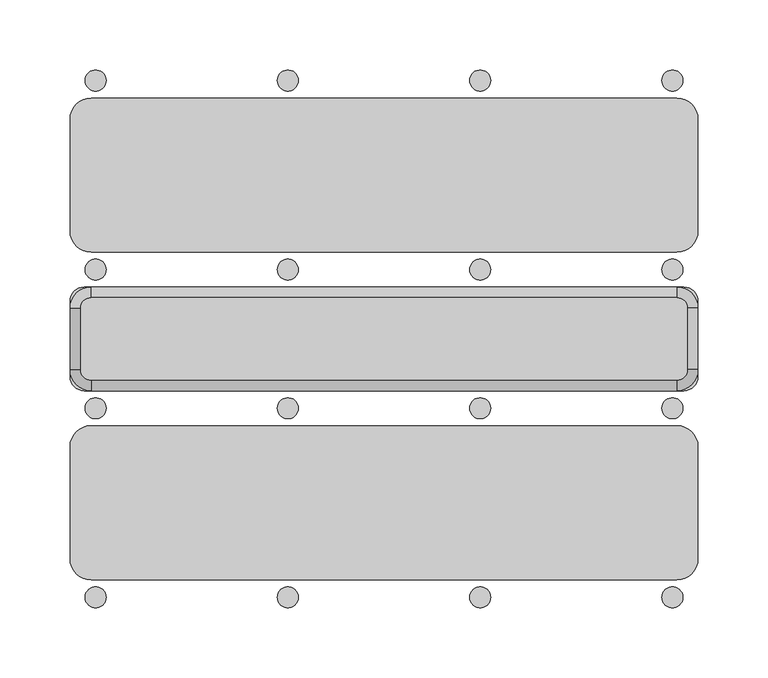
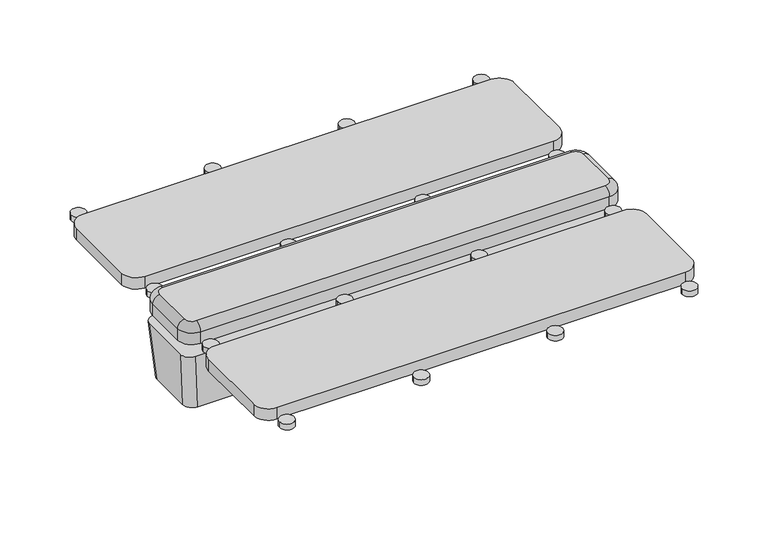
"""IFC4 building model written with IfcOpenShell, lengths in millimetres: light fixture geometry, Zumtobel CRAFT II Plus : CR2PL M17k-840 PC WB LDO WH."""

from ifc_helpers import new_model, si_unit, point, frame, frame_2d, origin, place, context, project, spatial, polyline, circle_curve, ellipse_curve, trimmed, segment, composite_curve, outline, extrude, source, transform, mapped, element, save
from ifc_brep_helpers import plane_surface, cylinder_surface, revolved_surface, extruded_surface, advanced_brep


def light_fixture_5285f3ff(model_context):
    return source(origin(), model_context, "Body", "SolidModel", [
        advanced_brep(
        [(608.5000048, -32.0, -84.0), (190.5000048, -32.0, -84.0), (180.5000048, -22.0, -84.0), (180.5000048, 22.0, -84.0), (190.5000048, 32.0, -84.0), (608.5000048, 32.0, -84.0), (618.5000048, 22.0, -84.0), (618.5000048, -22.0, -84.0), (613.5000048, -37.0, -25.0), (185.5000048, -37.0, -25.0), (175.5000048, -27.0, -25.0), (175.5000048, 27.0, -25.0), (185.5000048, 37.0, -25.0), (613.5000048, 37.0, -25.0), (623.5000048, 27.0, -25.0), (623.5000048, -27.0, -25.0)],
        [
            (0, 1),
            (1, 2, circle_curve(frame((190.5000048, -22.0, -84.0), z_axis=(0.0, 0.0, -1.0), x_axis=(1.0, 0.0, 0.0)), 10.0)),
            (2, 3),
            (3, 4, circle_curve(frame((190.5000048, 22.0, -84.0), z_axis=(0.0, 0.0, -1.0), x_axis=(1.0, 0.0, 0.0)), 10.0)),
            (4, 5),
            (5, 6, circle_curve(frame((608.5000048, 22.0, -84.0), z_axis=(0.0, 0.0, -1.0), x_axis=(1.0, 0.0, 0.0)), 10.0)),
            (6, 7),
            (7, 0, circle_curve(frame((608.5000048, -22.0, -84.0), z_axis=(0.0, 0.0, -1.0), x_axis=(1.0, 0.0, 0.0)), 10.0)),
            (8, 9),
            (9, 1),
            (0, 8),
            (10, 11),
            (11, 3),
            (2, 10),
            (12, 13),
            (13, 5),
            (4, 12),
            (14, 15),
            (15, 7),
            (6, 14),
            (9, 10, circle_curve(frame((185.5000048, -27.0, -25.0), z_axis=(0.0, 0.0, -1.0), x_axis=(1.0, 0.0, 0.0)), 10.0)),
            (11, 12, circle_curve(frame((185.5000048, 27.0, -25.0), z_axis=(0.0, 0.0, -1.0), x_axis=(1.0, 0.0, 0.0)), 10.0)),
            (13, 14, circle_curve(frame((613.5000048, 27.0, -25.0), z_axis=(0.0, 0.0, -1.0), x_axis=(1.0, 0.0, 0.0)), 10.0)),
            (15, 8, circle_curve(frame((613.5000048, -27.0, -25.0), z_axis=(0.0, 0.0, -1.0), x_axis=(1.0, 0.0, 0.0)), 10.0)),
        ],
        [
            plane_surface(frame((399.5000048, 0.0, -84.0), z_axis=(0.0, 0.0, -1.0), x_axis=(-1.0, 0.0, 0.0))),
            plane_surface(frame((399.5000048, -37.0, -25.0), z_axis=(0.0, -0.9964283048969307, -0.08444307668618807), x_axis=(-1.0, 0.0, 0.0))),
            plane_surface(frame((175.5000048, 0.0, -25.0), z_axis=(-0.9964283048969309, 0.0, -0.08444307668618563), x_axis=(0.0, 1.0, 0.0))),
            plane_surface(frame((399.5000048, 37.0, -25.0), z_axis=(0.0, 0.9964283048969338, -0.08444307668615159), x_axis=(1.0, 0.0, 0.0))),
            plane_surface(frame((623.5000048, 0.0, -25.0), z_axis=(0.9964283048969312, 0.0, -0.0844430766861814), x_axis=(0.0, -1.0, 0.0))),
            extruded_surface(trimmed(circle_curve(frame((185.5000048, -27.0, -25.0), z_axis=(0.0, 0.0, -1.0), x_axis=(1.0, 0.0, 0.0)), 10.0), [point((185.5000048, -37.0, -25.0))], [point((175.5000048, -27.0, -25.0))], True, "CARTESIAN"), (5.0, 5.0, -59.0), 59.42221806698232),
            extruded_surface(trimmed(circle_curve(frame((185.5000048, 27.0, -25.0), z_axis=(0.0, 0.0, -1.0), x_axis=(1.0, 0.0, 0.0)), 10.0), [point((175.5000048, 27.0, -25.0))], [point((185.5000048, 37.0, -25.0))], True, "CARTESIAN"), (5.0, -5.0, -59.0), 59.42221806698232),
            extruded_surface(trimmed(circle_curve(frame((613.5000048, 27.0, -25.0), z_axis=(0.0, 0.0, -1.0), x_axis=(1.0, 0.0, 0.0)), 10.0), [point((613.5000048, 37.0, -25.0))], [point((623.5000048, 27.0, -25.0))], True, "CARTESIAN"), (-5.0, -5.0, -59.0), 59.42221806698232),
            extruded_surface(trimmed(circle_curve(frame((613.5000048, -27.0, -25.0), z_axis=(0.0, 0.0, -1.0), x_axis=(1.0, 0.0, 0.0)), 10.0), [point((623.5000048, -27.0, -25.0))], [point((613.5000048, -37.0, -25.0))], True, "CARTESIAN"), (-5.0, 5.0, -59.0), 59.42221806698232),
            plane_surface(frame((399.5000048, 0.0, -25.0), z_axis=(0.0, 0.0, 1.0), x_axis=(-1.0, 0.0, 0.0))),
        ],
        [
            (0, [[1, 2, 3, 4, 5, 6, 7, 8]]),
            (1, [[9, 10, -1, 11]]),
            (2, [[12, 13, -3, 14]]),
            (3, [[15, 16, -5, 17]]),
            (4, [[18, 19, -7, 20]]),
            (5, [[21, -14, -2, -10]]),
            (6, [[22, -17, -4, -13]]),
            (7, [[23, -20, -6, -16]]),
            (8, [[24, -11, -8, -19]]),
            (9, [[-24, -18, -23, -15, -22, -12, -21, -9]]),
        ],
    ),
        extrude(outline(composite_curve([segment(polyline([(175.5000048, -157.0), (175.5000048, -77.0)]), True, "CONTINUOUS"), segment(trimmed(circle_curve(frame_2d((190.5000048, -77.0)), 15.0), [point((175.5000048, -77.0))], [point((190.5000048, -62.0))], False, "CARTESIAN"), True, "CONTINUOUS"), segment(polyline([(190.5000048, -62.0), (608.5000048, -62.0)]), True, "CONTINUOUS"), segment(trimmed(circle_curve(frame_2d((608.5000048, -77.0)), 15.0), [point((608.5000048, -62.0))], [point((623.5000048, -77.0))], False, "CARTESIAN"), True, "CONTINUOUS"), segment(polyline([(623.5000048, -77.0), (623.5000048, -157.0)]), True, "CONTINUOUS"), segment(trimmed(circle_curve(frame_2d((608.5000048, -157.0)), 15.0), [point((623.5000048, -157.0))], [point((608.5000048, -172.0))], False, "CARTESIAN"), True, "CONTINUOUS"), segment(polyline([(608.5000048, -172.0), (190.5000048, -172.0)]), True, "CONTINUOUS"), segment(trimmed(circle_curve(frame_2d((190.5000048, -157.0)), 15.0), [point((190.5000048, -172.0))], [point((175.5000048, -157.0))], False, "CARTESIAN"), True, "CONTINUOUS")], self_intersect=False)), frame((0.0, 0.0, -12.5), z_axis=(0.0, 0.0, 1.0), x_axis=(1.0, 0.0, 0.0)), (0.0, 0.0, 1.0), 12.5),
        extrude(outline(composite_curve([segment(trimmed(circle_curve(frame_2d((608.5000048, 157.0)), 15.0), [point((608.5000048, 172.0))], [point((623.5000048, 157.0))], False, "CARTESIAN"), True, "CONTINUOUS"), segment(polyline([(623.5000048, 157.0), (623.5000048, 77.0)]), True, "CONTINUOUS"), segment(trimmed(circle_curve(frame_2d((608.5000048, 77.0)), 15.0), [point((623.5000048, 77.0))], [point((608.5000048, 62.0))], False, "CARTESIAN"), True, "CONTINUOUS"), segment(polyline([(608.5000048, 62.0), (190.5000048, 62.0)]), True, "CONTINUOUS"), segment(trimmed(circle_curve(frame_2d((190.5000048, 77.0)), 15.0), [point((190.5000048, 62.0))], [point((175.5000048, 77.0))], False, "CARTESIAN"), True, "CONTINUOUS"), segment(polyline([(175.5000048, 77.0), (175.5000048, 157.0)]), True, "CONTINUOUS"), segment(trimmed(circle_curve(frame_2d((190.5000048, 157.0)), 15.0), [point((175.5000048, 157.0))], [point((190.5000048, 172.0))], False, "CARTESIAN"), True, "CONTINUOUS"), segment(polyline([(190.5000048, 172.0), (608.5000048, 172.0)]), True, "CONTINUOUS")], self_intersect=False)), frame((0.0, 0.0, -12.5), z_axis=(0.0, 0.0, 1.0), x_axis=(1.0, 0.0, 0.0)), (0.0, 0.0, 1.0), 12.5),
        extrude(outline(composite_curve([segment(trimmed(circle_curve(frame_2d((193.6792473, -184.5)), 7.5), [point((186.1792473, -184.5))], [point((201.1792473, -184.5))], False, "CARTESIAN"), True, "CONTINUOUS"), segment(trimmed(circle_curve(frame_2d((193.6792473, -184.5)), 7.5), [point((201.1792473, -184.5))], [point((186.1792473, -184.5))], False, "CARTESIAN"), True, "CONTINUOUS")], self_intersect=False)), frame((0.0, 0.0, -12.5), z_axis=(0.0, 0.0, 1.0), x_axis=(1.0, 0.0, 0.0)), (0.0, 0.0, 1.0), 6.2),
        extrude(outline(composite_curve([segment(trimmed(circle_curve(frame_2d((330.8930856, -184.5)), 7.5), [point((323.3930856, -184.5))], [point((338.3930856, -184.5))], False, "CARTESIAN"), True, "CONTINUOUS"), segment(trimmed(circle_curve(frame_2d((330.8930856, -184.5)), 7.5), [point((338.3930856, -184.5))], [point((323.3930856, -184.5))], False, "CARTESIAN"), True, "CONTINUOUS")], self_intersect=False)), frame((0.0, 0.0, -12.5), z_axis=(0.0, 0.0, 1.0), x_axis=(1.0, 0.0, 0.0)), (0.0, 0.0, 1.0), 6.2),
        extrude(outline(composite_curve([segment(trimmed(circle_curve(frame_2d((468.106924, -184.5)), 7.5), [point((460.606924, -184.5))], [point((475.606924, -184.5))], False, "CARTESIAN"), True, "CONTINUOUS"), segment(trimmed(circle_curve(frame_2d((468.106924, -184.5)), 7.5), [point((475.606924, -184.5))], [point((460.606924, -184.5))], False, "CARTESIAN"), True, "CONTINUOUS")], self_intersect=False)), frame((0.0, 0.0, -12.5), z_axis=(0.0, 0.0, 1.0), x_axis=(1.0, 0.0, 0.0)), (0.0, 0.0, 1.0), 6.2),
        extrude(outline(composite_curve([segment(trimmed(circle_curve(frame_2d((605.3207623, -184.5)), 7.5), [point((597.8207623, -184.5))], [point((612.8207623, -184.5))], False, "CARTESIAN"), True, "CONTINUOUS"), segment(trimmed(circle_curve(frame_2d((605.3207623, -184.5)), 7.5), [point((612.8207623, -184.5))], [point((597.8207623, -184.5))], False, "CARTESIAN"), True, "CONTINUOUS")], self_intersect=False)), frame((0.0, 0.0, -12.5), z_axis=(0.0, 0.0, 1.0), x_axis=(1.0, 0.0, 0.0)), (0.0, 0.0, 1.0), 6.2),
        extrude(outline(composite_curve([segment(trimmed(circle_curve(frame_2d((193.6792473, -49.5)), 7.5), [point((186.1792473, -49.5))], [point((201.1792473, -49.5))], False, "CARTESIAN"), True, "CONTINUOUS"), segment(trimmed(circle_curve(frame_2d((193.6792473, -49.5)), 7.5), [point((201.1792473, -49.5))], [point((186.1792473, -49.5))], False, "CARTESIAN"), True, "CONTINUOUS")], self_intersect=False)), frame((0.0, 0.0, -12.5), z_axis=(0.0, 0.0, 1.0), x_axis=(1.0, 0.0, 0.0)), (0.0, 0.0, 1.0), 6.2),
        extrude(outline(composite_curve([segment(trimmed(circle_curve(frame_2d((330.8930856, -49.5)), 7.5), [point((323.3930856, -49.5))], [point((338.3930856, -49.5))], False, "CARTESIAN"), True, "CONTINUOUS"), segment(trimmed(circle_curve(frame_2d((330.8930856, -49.5)), 7.5), [point((338.3930856, -49.5))], [point((323.3930856, -49.5))], False, "CARTESIAN"), True, "CONTINUOUS")], self_intersect=False)), frame((0.0, 0.0, -12.5), z_axis=(0.0, 0.0, 1.0), x_axis=(1.0, 0.0, 0.0)), (0.0, 0.0, 1.0), 6.2),
        extrude(outline(composite_curve([segment(trimmed(circle_curve(frame_2d((468.106924, -49.5)), 7.5), [point((460.606924, -49.5))], [point((475.606924, -49.5))], False, "CARTESIAN"), True, "CONTINUOUS"), segment(trimmed(circle_curve(frame_2d((468.106924, -49.5)), 7.5), [point((475.606924, -49.5))], [point((460.606924, -49.5))], False, "CARTESIAN"), True, "CONTINUOUS")], self_intersect=False)), frame((0.0, 0.0, -12.5), z_axis=(0.0, 0.0, 1.0), x_axis=(1.0, 0.0, 0.0)), (0.0, 0.0, 1.0), 6.2),
        extrude(outline(composite_curve([segment(trimmed(circle_curve(frame_2d((605.3207623, -49.5)), 7.5), [point((597.8207623, -49.5))], [point((612.8207623, -49.5))], False, "CARTESIAN"), True, "CONTINUOUS"), segment(trimmed(circle_curve(frame_2d((605.3207623, -49.5)), 7.5), [point((612.8207623, -49.5))], [point((597.8207623, -49.5))], False, "CARTESIAN"), True, "CONTINUOUS")], self_intersect=False)), frame((0.0, 0.0, -12.5), z_axis=(0.0, 0.0, 1.0), x_axis=(1.0, 0.0, 0.0)), (0.0, 0.0, 1.0), 6.2),
        extrude(outline(composite_curve([segment(trimmed(circle_curve(frame_2d((193.6792473, 184.5)), 7.5), [point((186.1792473, 184.5))], [point((201.1792473, 184.5))], False, "CARTESIAN"), True, "CONTINUOUS"), segment(trimmed(circle_curve(frame_2d((193.6792473, 184.5)), 7.5), [point((201.1792473, 184.5))], [point((186.1792473, 184.5))], False, "CARTESIAN"), True, "CONTINUOUS")], self_intersect=False)), frame((0.0, 0.0, -12.5), z_axis=(0.0, 0.0, 1.0), x_axis=(1.0, 0.0, 0.0)), (0.0, 0.0, 1.0), 6.2),
        extrude(outline(composite_curve([segment(trimmed(circle_curve(frame_2d((330.8930856, 184.5)), 7.5), [point((323.3930856, 184.5))], [point((338.3930856, 184.5))], False, "CARTESIAN"), True, "CONTINUOUS"), segment(trimmed(circle_curve(frame_2d((330.8930856, 184.5)), 7.5), [point((338.3930856, 184.5))], [point((323.3930856, 184.5))], False, "CARTESIAN"), True, "CONTINUOUS")], self_intersect=False)), frame((0.0, 0.0, -12.5), z_axis=(0.0, 0.0, 1.0), x_axis=(1.0, 0.0, 0.0)), (0.0, 0.0, 1.0), 6.2),
        extrude(outline(composite_curve([segment(trimmed(circle_curve(frame_2d((468.106924, 184.5)), 7.5), [point((460.606924, 184.5))], [point((475.606924, 184.5))], False, "CARTESIAN"), True, "CONTINUOUS"), segment(trimmed(circle_curve(frame_2d((468.106924, 184.5)), 7.5), [point((475.606924, 184.5))], [point((460.606924, 184.5))], False, "CARTESIAN"), True, "CONTINUOUS")], self_intersect=False)), frame((0.0, 0.0, -12.5), z_axis=(0.0, 0.0, 1.0), x_axis=(1.0, 0.0, 0.0)), (0.0, 0.0, 1.0), 6.2),
        extrude(outline(composite_curve([segment(trimmed(circle_curve(frame_2d((605.3207623, 184.5)), 7.5), [point((597.8207623, 184.5))], [point((612.8207623, 184.5))], False, "CARTESIAN"), True, "CONTINUOUS"), segment(trimmed(circle_curve(frame_2d((605.3207623, 184.5)), 7.5), [point((612.8207623, 184.5))], [point((597.8207623, 184.5))], False, "CARTESIAN"), True, "CONTINUOUS")], self_intersect=False)), frame((0.0, 0.0, -12.5), z_axis=(0.0, 0.0, 1.0), x_axis=(1.0, 0.0, 0.0)), (0.0, 0.0, 1.0), 6.2),
        extrude(outline(composite_curve([segment(trimmed(circle_curve(frame_2d((193.6792473, 49.5)), 7.5), [point((186.1792473, 49.5))], [point((201.1792473, 49.5))], False, "CARTESIAN"), True, "CONTINUOUS"), segment(trimmed(circle_curve(frame_2d((193.6792473, 49.5)), 7.5), [point((201.1792473, 49.5))], [point((186.1792473, 49.5))], False, "CARTESIAN"), True, "CONTINUOUS")], self_intersect=False)), frame((0.0, 0.0, -12.5), z_axis=(0.0, 0.0, 1.0), x_axis=(1.0, 0.0, 0.0)), (0.0, 0.0, 1.0), 6.2),
        extrude(outline(composite_curve([segment(trimmed(circle_curve(frame_2d((330.8930856, 49.5)), 7.5), [point((323.3930856, 49.5))], [point((338.3930856, 49.5))], False, "CARTESIAN"), True, "CONTINUOUS"), segment(trimmed(circle_curve(frame_2d((330.8930856, 49.5)), 7.5), [point((338.3930856, 49.5))], [point((323.3930856, 49.5))], False, "CARTESIAN"), True, "CONTINUOUS")], self_intersect=False)), frame((0.0, 0.0, -12.5), z_axis=(0.0, 0.0, 1.0), x_axis=(1.0, 0.0, 0.0)), (0.0, 0.0, 1.0), 6.2),
        extrude(outline(composite_curve([segment(trimmed(circle_curve(frame_2d((468.106924, 49.5)), 7.5), [point((460.606924, 49.5))], [point((475.606924, 49.5))], False, "CARTESIAN"), True, "CONTINUOUS"), segment(trimmed(circle_curve(frame_2d((468.106924, 49.5)), 7.5), [point((475.606924, 49.5))], [point((460.606924, 49.5))], False, "CARTESIAN"), True, "CONTINUOUS")], self_intersect=False)), frame((0.0, 0.0, -12.5), z_axis=(0.0, 0.0, 1.0), x_axis=(1.0, 0.0, 0.0)), (0.0, 0.0, 1.0), 6.2),
        extrude(outline(composite_curve([segment(trimmed(circle_curve(frame_2d((605.3207623, 49.5)), 7.5), [point((597.8207623, 49.5))], [point((612.8207623, 49.5))], False, "CARTESIAN"), True, "CONTINUOUS"), segment(trimmed(circle_curve(frame_2d((605.3207623, 49.5)), 7.5), [point((612.8207623, 49.5))], [point((597.8207623, 49.5))], False, "CARTESIAN"), True, "CONTINUOUS")], self_intersect=False)), frame((0.0, 0.0, -12.5), z_axis=(0.0, 0.0, 1.0), x_axis=(1.0, 0.0, 0.0)), (0.0, 0.0, 1.0), 6.2),
        advanced_brep(
        [(623.5000048, -22.0, -12.5), (608.5000048, -37.0, -12.5), (190.5000048, -37.0, -12.5), (175.5000048, -22.0, -12.5), (175.5000048, 22.0, -12.5), (190.5000048, 37.0, -12.5), (608.5000048, 37.0, -12.5), (623.5000048, 22.0, -12.5), (608.5000048, 29.5, 7.5), (190.5000048, 29.5, 7.5), (183.0000048, 22.0, 7.5), (183.0000048, -22.0, 7.5), (190.5000048, -29.5, 7.5), (608.5000048, -29.5, 7.5), (616.0000048, -22.0, 7.5), (616.0000048, 22.0, 7.5), (608.5000048, 37.0, 0.0), (190.5000048, 37.0, 0.0), (175.5000048, 22.0, 0.0), (175.5000048, -22.0, 0.0), (190.5000048, -37.0, 0.0), (608.5000048, -37.0, 0.0), (623.5000048, -22.0, 0.0), (623.5000048, 22.0, 0.0)],
        [
            (0, 1, circle_curve(frame((608.5000048, -22.0, -12.5), z_axis=(0.0, 0.0, -1.0), x_axis=(0.0, -1.0, 0.0)), 15.0)),
            (1, 2),
            (2, 3, circle_curve(frame((190.5000048, -22.0, -12.5), z_axis=(0.0, 0.0, -1.0), x_axis=(-1.0, 0.0, 0.0)), 15.0)),
            (3, 4),
            (4, 5, circle_curve(frame((190.5000048, 22.0, -12.5), z_axis=(0.0, 0.0, -1.0), x_axis=(0.0, 1.0, 0.0)), 15.0)),
            (5, 6),
            (6, 7, circle_curve(frame((608.5000048, 22.0, -12.5), z_axis=(0.0, 0.0, -1.0), x_axis=(1.0, 0.0, 0.0)), 15.0)),
            (7, 0),
            (8, 9),
            (9, 10, circle_curve(frame((190.5000048, 22.0, 7.5), z_axis=(0.0, 0.0, 1.0), x_axis=(0.0, 1.0, 0.0)), 7.5)),
            (10, 11),
            (11, 12, circle_curve(frame((190.5000048, -22.0, 7.5), z_axis=(0.0, 0.0, 1.0), x_axis=(-1.0, 0.0, 0.0)), 7.5)),
            (12, 13),
            (13, 14, circle_curve(frame((608.5000048, -22.0, 7.5), z_axis=(0.0, 0.0, 1.0), x_axis=(0.0, -1.0, 0.0)), 7.5)),
            (14, 15),
            (15, 8, circle_curve(frame((608.5000048, 22.0, 7.5), z_axis=(0.0, 0.0, 1.0), x_axis=(1.0, 0.0, 0.0)), 7.5)),
            (8, 16, circle_curve(frame((608.5000048, 29.5, 0.0), z_axis=(-1.0, 0.0, 0.0), x_axis=(0.0, -1.0, 0.0)), 7.5)),
            (16, 17),
            (17, 9, circle_curve(frame((190.5000048, 29.5, 0.0), z_axis=(1.0, 0.0, 0.0), x_axis=(0.0, -1.0, 0.0)), 7.5)),
            (17, 18, circle_curve(frame((190.5000048, 22.0, 0.0), z_axis=(0.0, 0.0, 1.0), x_axis=(0.0, 1.0, 0.0)), 15.0)),
            (18, 10, circle_curve(frame((183.0000048, 22.0, 0.0), z_axis=(0.0, 1.0, 0.0), x_axis=(1.0, 0.0, 0.0)), 7.5)),
            (18, 19),
            (19, 11, circle_curve(frame((183.0000048, -22.0, 0.0), z_axis=(0.0, 1.0, 0.0), x_axis=(1.0, 0.0, 0.0)), 7.5)),
            (19, 20, circle_curve(frame((190.5000048, -22.0, 0.0), z_axis=(0.0, 0.0, 1.0), x_axis=(-1.0, 0.0, 0.0)), 15.0)),
            (20, 12, circle_curve(frame((190.5000048, -29.5, 0.0), z_axis=(-1.0, 0.0, 0.0), x_axis=(0.0, 1.0, 0.0)), 7.5)),
            (20, 21),
            (21, 13, circle_curve(frame((608.5000048, -29.5, 0.0), z_axis=(-1.0, 0.0, 0.0), x_axis=(0.0, 1.0, 0.0)), 7.5)),
            (21, 22, circle_curve(frame((608.5000048, -22.0, 0.0), z_axis=(0.0, 0.0, 1.0), x_axis=(0.0, -1.0, 0.0)), 15.0)),
            (22, 14, circle_curve(frame((616.0000048, -22.0, 0.0), z_axis=(0.0, -1.0, 0.0), x_axis=(-1.0, 0.0, 0.0)), 7.5)),
            (22, 23),
            (23, 15, circle_curve(frame((616.0000048, 22.0, 0.0), z_axis=(0.0, -1.0, 0.0), x_axis=(-1.0, 0.0, 0.0)), 7.5)),
            (21, 1),
            (0, 22),
            (7, 23),
            (6, 16),
            (16, 23, circle_curve(frame((608.5000048, 22.0, 0.0), z_axis=(0.0, 0.0, -1.0), x_axis=(1.0, 0.0, 0.0)), 15.0)),
            (5, 17),
            (4, 18),
            (3, 19),
            (2, 20),
        ],
        [
            plane_surface(frame((190.5000048, -29.5, -12.5), z_axis=(0.0, 0.0, -1.0), x_axis=(-1.0, 0.0, 0.0))),
            plane_surface(frame((190.5000048, -29.5, 7.5), z_axis=(0.0, 0.0, 1.0), x_axis=(1.0, 0.0, 0.0))),
            cylinder_surface(frame((608.5000048, 29.5, 0.0), z_axis=(1.0, 0.0, 0.0), x_axis=(0.0, -1.0, 0.0)), 7.5),
            revolved_surface(trimmed(ellipse_curve(frame((190.5000048, 29.5, 0.0), z_axis=(1.0, 0.0, 0.0), x_axis=(0.0, -1.0, 0.0)), 7.5, 7.5), [point((190.5000048, 37.0, 0.0))], [point((190.5000048, 29.5, 7.5))], True, "CARTESIAN"), (190.5000048, 22.0, 0.0), (0.0, 0.0, 1.0)),
            cylinder_surface(frame((183.0000048, 22.0, 0.0), z_axis=(0.0, 1.0, 0.0), x_axis=(1.0, 0.0, 0.0)), 7.5),
            revolved_surface(trimmed(ellipse_curve(frame((183.0000048, -22.0, 0.0), z_axis=(0.0, 1.0, 0.0), x_axis=(1.0, 0.0, 0.0)), 7.5, 7.5), [point((175.5000048, -22.0, 0.0))], [point((183.0000048, -22.0, 7.5))], True, "CARTESIAN"), (190.5000048, -22.0, 0.0), (0.0, 0.0, 1.0)),
            cylinder_surface(frame((190.5000048, -29.5, 0.0), z_axis=(-1.0, 0.0, 0.0), x_axis=(0.0, 1.0, 0.0)), 7.5),
            revolved_surface(trimmed(ellipse_curve(frame((608.5000048, -29.5, 0.0), z_axis=(-1.0, 0.0, 0.0), x_axis=(0.0, 1.0, 0.0)), 7.5, 7.5), [point((608.5000048, -37.0, 0.0))], [point((608.5000048, -29.5, 7.5))], True, "CARTESIAN"), (608.5000048, -22.0, 0.0), (0.0, 0.0, 1.0)),
            cylinder_surface(frame((616.0000048, -22.0, 0.0), z_axis=(0.0, -1.0, 0.0), x_axis=(-1.0, 0.0, 0.0)), 7.5),
            cylinder_surface(frame((608.5000048, -22.0, 0.0), z_axis=(0.0, 0.0, 1.0), x_axis=(0.0, -1.0, 0.0)), 15.0),
            plane_surface(frame((623.5000048, -22.0, -12.5), z_axis=(1.0, 0.0, 0.0), x_axis=(0.0, 1.0, 0.0))),
            cylinder_surface(frame((608.5000048, 22.0, 0.0), z_axis=(0.0, 0.0, 1.0), x_axis=(1.0, 0.0, 0.0)), 15.0),
            revolved_surface(trimmed(ellipse_curve(frame((616.0000048, 22.0, 0.0), z_axis=(0.0, -1.0, 0.0), x_axis=(-1.0, 0.0, 0.0)), 7.5, 7.5), [point((623.5000048, 22.0, 0.0))], [point((616.0000048, 22.0, 7.5))], True, "CARTESIAN"), (608.5000048, 22.0, 0.0), (0.0, 0.0, 1.0)),
            plane_surface(frame((608.5000048, 37.0, -12.5), z_axis=(0.0, 1.0, 0.0), x_axis=(-1.0, 0.0, 0.0))),
            cylinder_surface(frame((190.5000048, 22.0, 0.0), z_axis=(0.0, 0.0, 1.0), x_axis=(0.0, 1.0, 0.0)), 15.0),
            plane_surface(frame((175.5000048, 22.0, -12.5), z_axis=(-1.0, 0.0, 0.0), x_axis=(0.0, -1.0, 0.0))),
            cylinder_surface(frame((190.5000048, -22.0, 0.0), z_axis=(0.0, 0.0, 1.0), x_axis=(-1.0, 0.0, 0.0)), 15.0),
            plane_surface(frame((190.5000048, -37.0, -12.5), z_axis=(0.0, -1.0, 0.0), x_axis=(1.0, 0.0, 0.0))),
        ],
        [
            (0, [[1, 2, 3, 4, 5, 6, 7, 8]]),
            (1, [[9, 10, 11, 12, 13, 14, 15, 16]]),
            (2, [[17, 18, 19, -9]]),
            (3, [[-19, 20, 21, -10]]),
            (4, [[-21, 22, 23, -11]]),
            (5, [[-23, 24, 25, -12]]),
            (6, [[-25, 26, 27, -13]]),
            (7, [[-27, 28, 29, -14]]),
            (8, [[-29, 30, 31, -15]]),
            (9, [[-28, 32, -1, 33]]),
            (10, [[-30, -33, -8, 34]]),
            (11, [[-34, -7, 35, 36]]),
            (12, [[-17, -16, -31, -36]]),
            (13, [[-18, -35, -6, 37]]),
            (14, [[-20, -37, -5, 38]]),
            (15, [[-22, -38, -4, 39]]),
            (16, [[-24, -39, -3, 40]]),
            (17, [[-26, -40, -2, -32]]),
        ],
    ),
    ])


if __name__ == "__main__":
    model = new_model("IFC4")
    model_context = context("Model", 3, world=origin())
    ifc_project = project(units=[si_unit("LENGTHUNIT", "METRE", prefix="MILLI")], contexts=[model_context])
    site = spatial("IfcSite", under=ifc_project)
    building = spatial("IfcBuilding", under=site)
    placement = place(None, origin())
    light_fixture_shape = light_fixture_5285f3ff(model_context)
    element("IfcLightFixture", 1, ObjectType="Zumtobel CRAFT II Plus : CR2PL M17k-840 PC WB LDO WH", at=placement, inside=building, context=model_context, shape_type="MappedRepresentation", body=[
        mapped(light_fixture_shape, transform((0.0, 0.0, 0.0), x_axis=(1.0, 0.0, 0.0), y_axis=(0.0, 1.0, 0.0), z_axis=(0.0, 0.0, 1.0))),
    ])
    save(model, "model.ifc")
